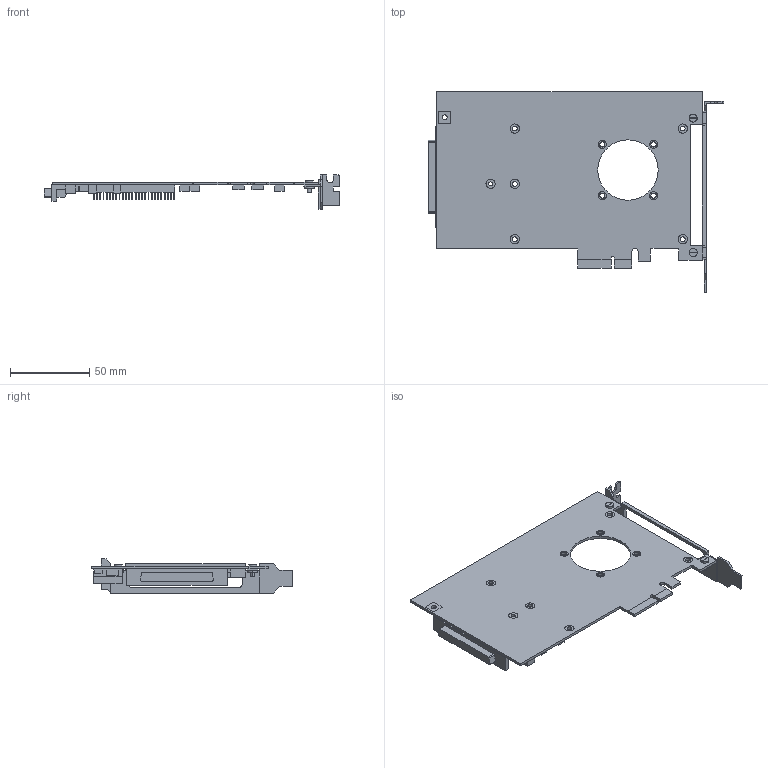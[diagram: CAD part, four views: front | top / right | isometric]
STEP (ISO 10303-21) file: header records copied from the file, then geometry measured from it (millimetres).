
FILE_DESCRIPTION (( 'STEP AP214' ), '1' );
FILE_NAME ('PCIE4-PMC-0-SCSI3.STEP', '2022-06-08T00:10:31', ( '' ), ( '' ), 'SwSTEP 2.0', 'SolidWorks 2021', '' );
FILE_SCHEMA (( 'AUTOMOTIVE_DESIGN' ));
Length unit declared in the file: inch
Products named in the file (1): PCIE4-PMC-0-SCSI3
Bounding box: 186.44 x 126.24 x 21.59 mm (x, y, z)
Volume: 44421.8 mm3; surface area: 52632.4 mm2
Topology: 19 solids, 19 shells, 417 faces, 1077 edges, 733 vertices
Faces by surface type: plane 359, cylinder 58
Entity records: 18366 total; most frequent: CARTESIAN_POINT 2228, ORIENTED_EDGE 2154, DIRECTION 2077, EDGE_CURVE 1077, VECTOR 913, LINE 913, VERTEX_POINT 733, AXIS2_PLACEMENT_3D 582
